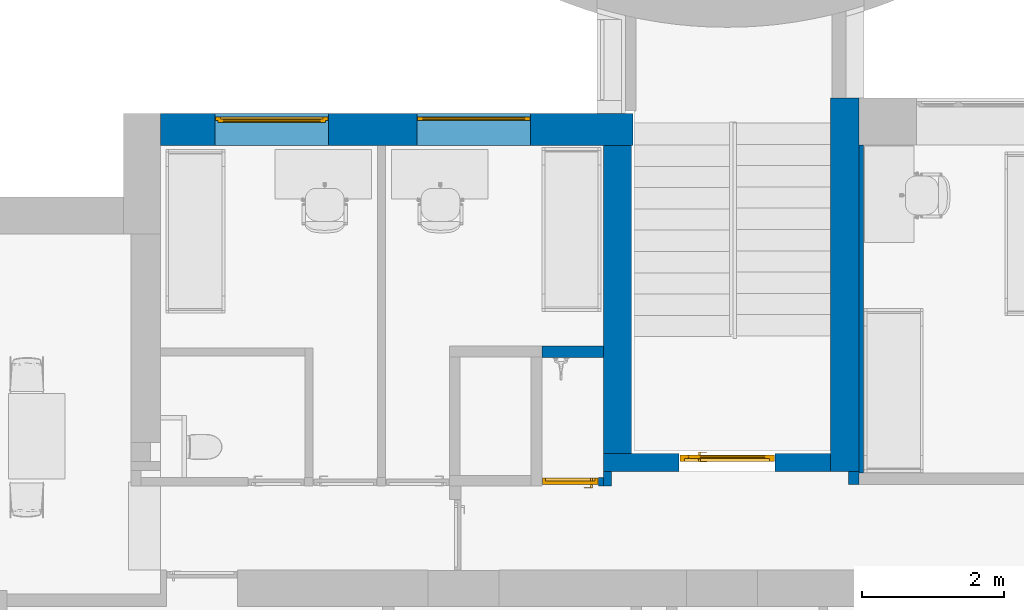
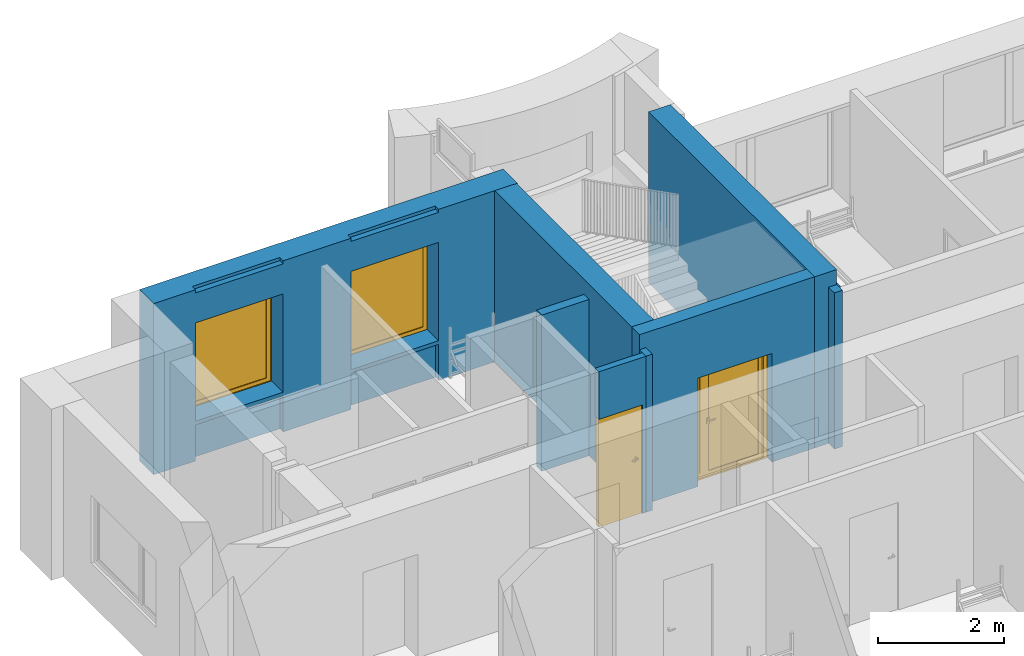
# One storey, part 6 of 48: 9 walls, 2 doors, 2 windows, 6 openings.
"""IFC2X3 building model written with IfcOpenShell, lengths in millimetres."""

import ifcopenshell
import ifcopenshell.guid

model = None  # the IFC model being written
_history = None  # IfcOwnerHistory: only IFC2X3 demands one
_inside = {}  # id of a spatial element -> (the spatial element, [elements in it])
_under = {}  # id of a project, library or spatial element -> (it, [spatial elements below it])
_declared = {}  # id of a project -> (the project, [libraries it declares])
_typed = {}  # id of a type object -> (the type object, [elements of that type])
_made_of = {}  # id of a material, layer set ... -> (it, [elements and type objects made of it])


def new_model(schema):
    """Start an empty IFC model of exactly this schema.

    Asked for "IFC4X3", IfcOpenShell would pick the latest addendum, in which some entities
    have other attributes; the version numbers below select the first issue.
    IFC2X3 requires an IfcOwnerHistory on every rooted entity: one is made here for all.
    """
    global model, _history
    if schema == "IFC4X3":
        model = ifcopenshell.file(schema_version=(4, 3, 0, 0))
    else:
        model = ifcopenshell.file(schema=schema)
    _inside.clear()
    _under.clear()
    _declared.clear()
    _typed.clear()
    _made_of.clear()
    _history = None
    if model.schema == "IFC2X3":
        org = make("IfcOrganization", Name="unknown")
        user = make(
            "IfcPersonAndOrganization",
            ThePerson=make("IfcPerson", FamilyName="unknown"),
            TheOrganization=org,
        )
        app = make(
            "IfcApplication",
            ApplicationDeveloper=org,
            Version="unknown",
            ApplicationFullName="unknown",
            ApplicationIdentifier="unknown",
        )
        _history = make(
            "IfcOwnerHistory",
            OwningUser=user,
            OwningApplication=app,
            ChangeAction="ADDED",
            CreationDate=0,
        )
    return model


def make(cls, **values):
    """One entity of the class cls with the attributes given. An attribute that is None is left unset."""
    return model.create_entity(
        cls, **{name: value for name, value in values.items() if value is not None}
    )


def entity(cls, *values):
    """Any entity or typed value of the class cls, its attributes in the order of the schema. None: left unset."""
    e = model.create_entity(cls)
    for i, value in enumerate(values):
        if value is not None:
            e[i] = value
    return e


def rooted(cls, **values):
    """An entity with a GlobalId (a new one), such as an element, a storey or a relation."""
    return make(cls, GlobalId=ifcopenshell.guid.new(), OwnerHistory=_history, **values)


def si_unit(unit_type, name, prefix=None):
    """IfcSIUnit, for example si_unit("LENGTHUNIT", "METRE", prefix="MILLI")."""
    return make("IfcSIUnit", UnitType=unit_type, Prefix=prefix, Name=name)


def converted_unit(unit_type, name, factor, base, dimensions=None, offset=None):
    """IfcConversionBasedUnit, such as the inch: factor (a typed value) times the base unit."""
    return make(
        "IfcConversionBasedUnit"
        if offset is None
        else "IfcConversionBasedUnitWithOffset",
        ConversionOffset=offset,
        Dimensions=None
        if dimensions is None
        else entity("IfcDimensionalExponents", *dimensions),
        UnitType=unit_type,
        Name=name,
        ConversionFactor=make(
            "IfcMeasureWithUnit", ValueComponent=factor, UnitComponent=base
        ),
    )


def derived_unit(unit_type, elements):
    """IfcDerivedUnit: a product of units, each with its exponent."""
    return make(
        "IfcDerivedUnit",
        Elements=[
            make("IfcDerivedUnitElement", Unit=unit, Exponent=power)
            for unit, power in elements
        ],
        UnitType=unit_type,
    )


def assignment(units):
    """IfcUnitAssignment: the units of a project."""
    return None if units is None else make("IfcUnitAssignment", Units=units)


def point(xyz):
    """IfcCartesianPoint."""
    return None if xyz is None else make("IfcCartesianPoint", Coordinates=xyz)


def direction(xyz):
    """IfcDirection."""
    return None if xyz is None else make("IfcDirection", DirectionRatios=xyz)


def frame(location, z_axis=None, x_axis=None):
    """IfcAxis2Placement3D, a coordinate frame: its origin and axes. An axis left out is left unset."""
    return make(
        "IfcAxis2Placement3D",
        Location=point(location),
        Axis=direction(z_axis),
        RefDirection=direction(x_axis),
    )


def frame_2d(location, x_axis=None):
    """IfcAxis2Placement2D, a coordinate frame in the plane: its origin and x axis."""
    return make(
        "IfcAxis2Placement2D", Location=point(location), RefDirection=direction(x_axis)
    )


def origin():
    """The frame at (0, 0, 0) with its axes left unset."""
    return frame((0.0, 0.0, 0.0))


def origin_2d_with_axis():
    """The frame at (0, 0) in the plane with the x axis (1, 0) written out."""
    return frame_2d((0.0, 0.0), x_axis=(1.0, 0.0))


def place(relative_to, where):
    """IfcLocalPlacement: puts the frame where relative to a parent placement (None: the world)."""
    return make(
        "IfcLocalPlacement", PlacementRelTo=relative_to, RelativePlacement=where
    )


def context(
    kind, dimensions, precision=None, world=None, true_north=None, identifier=None
):
    """IfcGeometricRepresentationContext, for example the 3D "Model" context."""
    return make(
        "IfcGeometricRepresentationContext",
        ContextIdentifier=identifier,
        ContextType=kind,
        CoordinateSpaceDimension=dimensions,
        Precision=precision,
        WorldCoordinateSystem=world,
        TrueNorth=true_north,
    )


def subcontext(parent, identifier, kind, view, scale=None):
    """IfcGeometricRepresentationSubContext, for example "Body" below "Model"."""
    return make(
        "IfcGeometricRepresentationSubContext",
        ContextIdentifier=identifier,
        ContextType=kind,
        ParentContext=parent,
        TargetScale=scale,
        TargetView=view,
    )


def project(units=None, contexts=None):
    """IfcProject with its units and contexts."""
    return rooted(
        "IfcProject",
        Name="project",
        RepresentationContexts=contexts,
        UnitsInContext=assignment(units),
    )


def spatial(cls, under=None, at=None, **own):
    """A site, building, storey or space (cls), placed at a placement, below another one or the project."""
    s = rooted(cls, ObjectPlacement=at, **own)
    if under is not None:
        _under.setdefault(under.id(), (under, []))[1].append(s)
    return s


def polyline(points):
    """IfcPolyline through the points."""
    return make("IfcPolyline", Points=[point(p) for p in points])


def profile(cls, at=None, kind="AREA", **sizes):
    """A parametric profile (cls). Its sizes go by their IFC names, for example OverallWidth=200.0."""
    return make(cls, ProfileType=kind, Position=at, **sizes)


def rectangle(**sizes):
    """IfcRectangleProfileDef."""
    return profile("IfcRectangleProfileDef", **sizes)


def outline(outer, holes=None, kind="AREA"):
    """IfcArbitraryClosedProfileDef: a profile drawn as a closed curve; with holes, ...WithVoids."""
    if holes is None:
        return make("IfcArbitraryClosedProfileDef", ProfileType=kind, OuterCurve=outer)
    return make(
        "IfcArbitraryProfileDefWithVoids",
        ProfileType=kind,
        OuterCurve=outer,
        InnerCurves=holes,
    )


def extrude(swept, where, along, depth):
    """IfcExtrudedAreaSolid: the profile swept, set in the frame where, extruded along a direction by depth."""
    return make(
        "IfcExtrudedAreaSolid",
        SweptArea=swept,
        Position=where,
        ExtrudedDirection=direction(along),
        Depth=depth,
    )


def faces_of(points, faces, orient=None, outer=None):
    """IfcFace entities. A face is a list of loops; a loop is a list of indices into points, from 0.

    orient and outer hold one flag for each loop. By default every Orientation is true, the
    first loop of a face is its IfcFaceOuterBound and the others are IfcFaceBound.
    """
    made = []
    for i, loops in enumerate(faces):
        bounds = []
        for j, loop in enumerate(loops):
            is_outer = j == 0 if outer is None else outer[i][j]
            bounds.append(
                make(
                    "IfcFaceOuterBound" if is_outer else "IfcFaceBound",
                    Bound=make("IfcPolyLoop", Polygon=[points[k] for k in loop]),
                    Orientation=True if orient is None else orient[i][j],
                )
            )
        made.append(make("IfcFace", Bounds=bounds))
    return made


def faceted_brep(points, faces, orient=None, outer=None, voids=None):
    """IfcFacetedBrep: a solid bounded by flat faces; with voids (closed shells), ...WithVoids."""
    shared = [point(p) for p in points]
    hull = make("IfcClosedShell", CfsFaces=faces_of(shared, faces, orient, outer))
    if voids is None:
        return make("IfcFacetedBrep", Outer=hull)
    return make(
        "IfcFacetedBrepWithVoids",
        Outer=hull,
        Voids=[
            make(cls, CfsFaces=faces_of(shared, fs, o, b)) for cls, fs, o, b in voids
        ],
    )


def shape(context_of_items, identifier, shape_type, items):
    """IfcShapeRepresentation: the items that make up one representation, for example the "Body"."""
    return make(
        "IfcShapeRepresentation",
        ContextOfItems=context_of_items,
        RepresentationIdentifier=identifier,
        RepresentationType=shape_type,
        Items=items,
    )


def source(mapping_origin, context_of_items, identifier, shape_type, items):
    """IfcRepresentationMap: a shape defined once, which mapped items show again and again."""
    return make(
        "IfcRepresentationMap",
        MappingOrigin=mapping_origin,
        MappedRepresentation=shape(context_of_items, identifier, shape_type, items),
    )


def transform(
    local_origin,
    x_axis=None,
    y_axis=None,
    z_axis=None,
    scale=None,
    scale2=None,
    scale3=None,
    uniform=True,
):
    """IfcCartesianTransformationOperator3D, or its non-uniform kind. x_axis, y_axis, z_axis: its Axis1, 2, 3."""
    if uniform:
        return make(
            "IfcCartesianTransformationOperator3D",
            Axis1=direction(x_axis),
            Axis2=direction(y_axis),
            LocalOrigin=point(local_origin),
            Scale=scale,
            Axis3=direction(z_axis),
        )
    return make(
        "IfcCartesianTransformationOperator3DnonUniform",
        Axis1=direction(x_axis),
        Axis2=direction(y_axis),
        LocalOrigin=point(local_origin),
        Scale=scale,
        Axis3=direction(z_axis),
        Scale2=scale2,
        Scale3=scale3,
    )


def mapped(mapping_source, mapping_target):
    """IfcMappedItem: shows the shape of a source again, moved by a transform."""
    return make(
        "IfcMappedItem", MappingSource=mapping_source, MappingTarget=mapping_target
    )


def material(Name=None, Category=None):
    """IfcMaterial."""
    return make("IfcMaterial", Name=Name, Category=Category)


def material_list(materials):
    """IfcMaterialList."""
    return make("IfcMaterialList", Materials=materials)


def layer(
    of_material, thickness, ventilated=None, Name=None, Category=None, Priority=None
):
    """IfcMaterialLayer: one layer of a wall or slab, of a material (None: an air gap)."""
    return make(
        "IfcMaterialLayer",
        Material=of_material,
        LayerThickness=thickness,
        IsVentilated=ventilated,
        Name=Name,
        Category=Category,
        Priority=Priority,
    )


def layer_set(layers, Name=None):
    """IfcMaterialLayerSet."""
    return make("IfcMaterialLayerSet", MaterialLayers=layers, LayerSetName=Name)


def layer_usage(for_layer_set, set_direction, sense, offset, extent=None):
    """IfcMaterialLayerSetUsage: how a layer set lies in its element."""
    return make(
        "IfcMaterialLayerSetUsage",
        ForLayerSet=for_layer_set,
        LayerSetDirection=set_direction,
        DirectionSense=sense,
        OffsetFromReferenceLine=offset,
        ReferenceExtent=extent,
    )


def made_of(thing, what):
    """Note that an element or type object is made of a material, layer set ...; save() writes the relation."""
    if what is not None:
        _made_of.setdefault(what.id(), (what, []))[1].append(thing)
    return thing


def type_object(cls, material=None, **own):
    """A type object (cls), such as IfcWallType, which elements share."""
    return made_of(rooted(cls, **own), material)


def type_shapes(of_type, sources):
    """Give a type object the sources (RepresentationMaps) that its elements show as mapped items."""
    of_type.RepresentationMaps = sources


def element(
    cls,
    number,
    at=None,
    inside=None,
    cuts=None,
    type_object=None,
    material=None,
    context=None,
    identifier="Body",
    shape_type=None,
    held_by="IfcProductDefinitionShape",
    body=None,
    shapes=None,
    **own,
):
    """One element of the class cls, such as IfcWall. Its Tag is "e" and its number.

    at: its placement. inside: the storey or other place that contains it. cuts: it is an
    opening in that element (IfcRelVoidsElement). A single representation is given by context,
    identifier, shape_type and body (its items); several are given by shapes. held_by: the class
    of the entity that holds the representations. save() writes the other relations.
    """
    e = rooted(cls, Tag="e%d" % number, ObjectPlacement=at, **own)
    if body is not None:
        shapes = [shape(context, identifier, shape_type, body)]
    if shapes is not None:
        e.Representation = make(held_by, Representations=shapes)
    if inside is not None:
        _inside.setdefault(inside.id(), (inside, []))[1].append(e)
    if cuts is not None:
        rooted(
            "IfcRelVoidsElement", RelatingBuildingElement=cuts, RelatedOpeningElement=e
        )
    if type_object is not None:
        _typed.setdefault(type_object.id(), (type_object, []))[1].append(e)
    return made_of(e, material)


def fill(opening, filler):
    """IfcRelFillsElement: the door or window that sits in an opening."""
    return rooted(
        "IfcRelFillsElement",
        RelatingOpeningElement=opening,
        RelatedBuildingElement=filler,
    )


def aggregate(whole, parts):
    """IfcRelAggregates: a whole, such as a stair, and the parts it consists of."""
    return rooted("IfcRelAggregates", RelatingObject=whole, RelatedObjects=parts)


def save(model, path):
    """Write the relations noted so far, then the file.

    IfcRelAggregates (storeys below a building ...), IfcRelContainedInSpatialStructure (elements
    in a storey), IfcRelDefinesByType, IfcRelAssociatesMaterial and IfcRelDeclares: one each for
    every whole, place, type object, material and project.
    """
    for whole, parts in _under.values():
        aggregate(whole, parts)
    for where, things in _inside.values():
        rooted(
            "IfcRelContainedInSpatialStructure",
            RelatedElements=things,
            RelatingStructure=where,
        )
    for kind, things in _typed.values():
        rooted("IfcRelDefinesByType", RelatedObjects=things, RelatingType=kind)
    for what, things in _made_of.values():
        rooted("IfcRelAssociatesMaterial", RelatedObjects=things, RelatingMaterial=what)
    for by, libraries in _declared.values():
        rooted("IfcRelDeclares", RelatingContext=by, RelatedDefinitions=libraries)
    model.write(path)


model = new_model("IFC2X3")

# Units and contexts
model_context = context("Model", 3, precision=0.01, world=origin(), true_north=direction((6.12303176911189e-17, 1.0)))
body_context = subcontext(model_context, "Body", "Model", "MODEL_VIEW")
ifc_project = project(units=[si_unit("LENGTHUNIT", "METRE", prefix="MILLI"), si_unit("AREAUNIT", "SQUARE_METRE"), si_unit("VOLUMEUNIT", "CUBIC_METRE"), converted_unit("PLANEANGLEUNIT", "DEGREE", entity("IfcRatioMeasure", 0.0174532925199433), si_unit("PLANEANGLEUNIT", "RADIAN"), dimensions=[0, 0, 0, 0, 0, 0, 0]), si_unit("MASSUNIT", "GRAM", prefix="KILO"), derived_unit("MASSDENSITYUNIT", [(si_unit("MASSUNIT", "GRAM", prefix="KILO"), 1), (si_unit("LENGTHUNIT", "METRE"), -3)]), si_unit("TIMEUNIT", "SECOND"), si_unit("FREQUENCYUNIT", "HERTZ"), si_unit("THERMODYNAMICTEMPERATUREUNIT", "DEGREE_CELSIUS"), derived_unit("THERMALTRANSMITTANCEUNIT", [(si_unit("MASSUNIT", "GRAM", prefix="KILO"), 1), (si_unit("THERMODYNAMICTEMPERATUREUNIT", "KELVIN"), -1), (si_unit("TIMEUNIT", "SECOND"), -3)]), derived_unit("VOLUMETRICFLOWRATEUNIT", [(si_unit("LENGTHUNIT", "METRE"), 3), (si_unit("TIMEUNIT", "SECOND"), -1)]), si_unit("ELECTRICCURRENTUNIT", "AMPERE"), si_unit("ELECTRICVOLTAGEUNIT", "VOLT"), si_unit("POWERUNIT", "WATT"), si_unit("FORCEUNIT", "NEWTON", prefix="KILO"), si_unit("ILLUMINANCEUNIT", "LUX"), si_unit("LUMINOUSFLUXUNIT", "LUMEN"), si_unit("LUMINOUSINTENSITYUNIT", "CANDELA"), derived_unit("USERDEFINED", [(si_unit("MASSUNIT", "GRAM", prefix="KILO"), -1), (si_unit("LENGTHUNIT", "METRE"), -2), (si_unit("TIMEUNIT", "SECOND"), 3), (si_unit("LUMINOUSFLUXUNIT", "LUMEN"), 1)]), derived_unit("LINEARVELOCITYUNIT", [(si_unit("LENGTHUNIT", "METRE"), 1), (si_unit("TIMEUNIT", "SECOND"), -1)]), si_unit("PRESSUREUNIT", "PASCAL"), derived_unit("USERDEFINED", [(si_unit("LENGTHUNIT", "METRE"), -2), (si_unit("MASSUNIT", "GRAM", prefix="KILO"), 1), (si_unit("TIMEUNIT", "SECOND"), -2)]), derived_unit("LINEARFORCEUNIT", [(si_unit("MASSUNIT", "GRAM", prefix="KILO"), 1), (si_unit("LENGTHUNIT", "METRE"), 1), (si_unit("TIMEUNIT", "SECOND"), -2), (si_unit("LENGTHUNIT", "METRE"), -1)]), derived_unit("PLANARFORCEUNIT", [(si_unit("MASSUNIT", "GRAM", prefix="KILO"), 1), (si_unit("LENGTHUNIT", "METRE"), 1), (si_unit("TIMEUNIT", "SECOND"), -2), (si_unit("LENGTHUNIT", "METRE"), -2)])], contexts=[model_context])

# Site, building, storey
site_placement = place(None, origin())
site = spatial("IfcSite", under=ifc_project, at=site_placement, Name="Default", CompositionType="ELEMENT")
building_placement = place(site_placement, origin())
building = spatial("IfcBuilding", under=site, at=building_placement, Name="SMA ARH", CompositionType="ELEMENT")
storey_placement = place(building_placement, frame((0.0, 0.0, 6600.0)))
storey = spatial("IfcBuildingStorey", under=building, at=storey_placement, Name="3 Korrus", CompositionType="ELEMENT", Elevation=6599.99999999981)

# Walls
ifc_material_1 = material(Name="_ol.olev sein")
ifc_layer_1 = layer(ifc_material_1, 400.0)
ifc_layer_set_1 = layer_set([ifc_layer_1], Name="Basic Wall:Generic - 400mm")
ifc_layer_usage_1 = layer_usage(ifc_layer_set_1, "AXIS2", "POSITIVE", -200.0)
wall_type_1 = type_object("IfcWallType", Name="Basic Wall:Generic - 400mm", PredefinedType="STANDARD", material=ifc_layer_set_1)
wall_1_placement = place(storey_placement, frame((11800.0, 7905.0, 0.0), z_axis=(0.0, 0.0, 1.0), x_axis=(0.0, 1.0, 0.0)))
element("IfcWallStandardCase", 1, at=wall_1_placement, inside=storey, type_object=wall_type_1, material=ifc_layer_usage_1, Name="Basic Wall:Generic - 400mm", ObjectType="Basic Wall:Generic - 400mm", context=body_context, shape_type="SweptSolid", body=[
    extrude(rectangle(XDim=5260.00000000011, YDim=400.0, at=frame_2d((2630.00000000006, 4.68958205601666e-13), x_axis=(-1.0, 0.0))), origin(), (0.0, 0.0, 1.0), 3309.99999999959),
])
ifc_layer_usage_2 = layer_usage(ifc_layer_set_1, "AXIS2", "POSITIVE", -200.0)
wall_2_placement = place(storey_placement, frame((8600.0, 12496.2030428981, 0.0), z_axis=(0.0, 0.0, 1.0), x_axis=(0.0, -1.0, 0.0)))
element("IfcWallStandardCase", 2, at=wall_2_placement, inside=storey, type_object=wall_type_1, material=ifc_layer_usage_2, Name="Basic Wall:Generic - 400mm", ObjectType="Basic Wall:Generic - 400mm", context=body_context, shape_type="SweptSolid", body=[
    extrude(rectangle(XDim=4341.20304289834, YDim=400.0, at=frame_2d((2170.60152144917, -1.98951966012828e-13), x_axis=(-1.0, 0.0))), origin(), (0.0, 0.0, 1.0), 3309.99999999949),
])

# Wall, openings, windows
ifc_layer_2 = layer(ifc_material_1, 450.0)
ifc_layer_set_2 = layer_set([ifc_layer_2], Name="Basic Wall:Generic - 450mm")
ifc_layer_usage_3 = layer_usage(ifc_layer_set_2, "AXIS2", "NEGATIVE", 225.0)
wall_type_2 = type_object("IfcWallType", Name="Basic Wall:Generic - 450mm", PredefinedType="STANDARD", material=ifc_layer_set_2)
wall_3_placement = place(storey_placement, frame((2165.0, 12721.2030428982, 0.0)))
wall_3 = element("IfcWallStandardCase", 3, at=wall_3_placement, inside=storey, type_object=wall_type_2, material=ifc_layer_usage_3, Name="Basic Wall:Generic - 450mm", ObjectType="Basic Wall:Generic - 450mm", context=body_context, shape_type="SweptSolid", body=[
    extrude(rectangle(XDim=6650.93924803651, YDim=450.000000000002, at=frame_2d((3325.46962401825, 2.55795384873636e-13), x_axis=(-1.0, 0.0))), origin(), (0.0, 0.0, 1.0), 3309.99999999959),
])
opening_1_placement = place(wall_3_placement, origin())
element("IfcOpeningElement", 4, at=opening_1_placement, cuts=wall_3, Name="Basic Wall:Generic - 450mm", ObjectType="Recess", context=body_context, shape_type="SweptSolid", body=[
    extrude(rectangle(XDim=757.825710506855, YDim=1600.0, at=frame_2d((-5.40012479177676e-13, 5.11590769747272e-13), x_axis=(1.0, 0.0))), frame((4410.0, -225.0, 318.912855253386), z_axis=(0.0, 1.0, 0.0), x_axis=(0.0, 0.0, -1.0)), (0.0, 0.0, 1.0), 103.796957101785),
    extrude(rectangle(XDim=757.825710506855, YDim=1600.0, at=frame_2d((-5.40012479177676e-13, -5.11590769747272e-13), x_axis=(1.0, 0.0))), frame((1565.0, -225.0, 318.912855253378), z_axis=(0.0, 1.0, 0.0), x_axis=(0.0, 0.0, -1.0)), (0.0, 0.0, 1.0), 103.796957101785),
    extrude(rectangle(XDim=757.825710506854, YDim=1600.0, at=origin_2d_with_axis()), frame((1565.0, -245.0, 3628.91285525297), z_axis=(0.0, 1.0, 0.0), x_axis=(0.0, 0.0, -1.0)), (0.0, 0.0, 1.0), 123.796957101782),
    extrude(rectangle(XDim=757.825710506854, YDim=1600.0, at=frame_2d((0.0, 5.11590769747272e-13), x_axis=(1.0, 0.0))), frame((4410.0, -245.0, 3628.91285525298), z_axis=(0.0, 1.0, 0.0), x_axis=(0.0, 0.0, -1.0)), (0.0, 0.0, 1.0), 123.796957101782),
])
opening_2_placement = place(wall_3_placement, frame((3610.0, -225.0, 770.0)))
opening_2 = element("IfcOpeningElement", 5, at=opening_2_placement, cuts=wall_3, Name="SMA_W1, 1-jaotus1:A-00_1650x1900 mm kinni:1", ObjectType="Opening", context=body_context, shape_type="SweptSolid", body=[
    extrude(rectangle(XDim=1900.0, YDim=1600.0, at=frame_2d((950.0, 800.0), x_axis=(1.0, 0.0))), frame((0.0, 0.0, 0.0), z_axis=(0.0, 1.0, 0.0), x_axis=(0.0, 0.0, 1.0)), (0.0, 0.0, 1.0), 450.0),
])
opening_3_placement = place(wall_3_placement, frame((765.0, -225.0, 770.0)))
opening_3 = element("IfcOpeningElement", 6, at=opening_3_placement, cuts=wall_3, Name="SMA_W1, 1-jaotus1:A-00_1650x1900 mm:1", ObjectType="Opening", context=body_context, shape_type="SweptSolid", body=[
    extrude(rectangle(XDim=1900.0, YDim=1600.0, at=frame_2d((950.0, 800.0), x_axis=(1.0, 0.0))), frame((0.0, 0.0, 0.0), z_axis=(0.0, 1.0, 0.0), x_axis=(0.0, 0.0, 1.0)), (0.0, 0.0, 1.0), 450.0),
])
ifc_material_2 = material(Name="EST. Klaas. 3x. Default")
ifc_material_3 = material(Name="Default")
ifc_material_list_1 = material_list([ifc_material_2, ifc_material_3])
ifc_material_4 = material(Name="<Unnamed>")
ifc_material_list_2 = material_list([ifc_material_2, ifc_material_3, ifc_material_4, ifc_material_3, ifc_material_4])
window_style_1 = type_object("IfcWindowStyle", Name="SMA_W1, 1-jaotus1:A-00_1650x1900 mm", ConstructionType="NOTDEFINED", OperationType="NOTDEFINED", ParameterTakesPrecedence=False, Sizeable=False, material=ifc_material_list_2)
shared_shape_1 = source(origin(), body_context, "Body", "SweptSolid", [
    extrude(rectangle(XDim=20.0, YDim=1370.0, at=frame_2d((1.68753899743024e-14, -1.13686837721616e-13), x_axis=(1.0, 0.0))), frame((800.0, 350.0, 115.0), z_axis=(0.0, 0.0, 1.0), x_axis=(0.0, 1.0, 0.0)), (0.0, 0.0, 1.0), 1670.0),
    extrude(outline(polyline([(-905.0, -755.0), (905.0, -755.0), (905.0, 755.0), (-905.0, 755.0), (-905.0, -755.0)]), holes=[polyline([(835.0, 685.0), (835.0, -685.0), (-835.0, -685.0), (-835.0, 685.0), (835.0, 685.0)])]), frame((800.0, 325.0, 950.0), z_axis=(0.0, 1.0, 0.0), x_axis=(0.0, 0.0, 1.0)), (0.0, 0.0, 1.0), 50.0),
    extrude(outline(polyline([(-940.0, -790.0), (940.0, -790.0), (940.0, 790.0), (-940.0, 790.0), (-940.0, -790.0)]), holes=[polyline([(-870.0, -720.0), (-870.0, 720.0), (870.0, 720.0), (870.0, -720.0), (-870.0, -720.0)])]), frame((800.0, 350.0, 950.0), z_axis=(0.0, 1.0, 0.0), x_axis=(0.0, 0.0, 1.0)), (0.0, 0.0, 1.0), 50.0),
])
type_shapes(window_style_1, [shared_shape_1])
window_1_placement = place(opening_3_placement, origin())
window_1 = element("IfcWindow", 7, at=window_1_placement, inside=storey, type_object=window_style_1, material=ifc_material_list_1, Name="SMA_W1, 1-jaotus1:A-00_1650x1900 mm", ObjectType="SMA_W1, 1-jaotus1:A-00_1650x1900 mm", OverallHeight=1900.0, OverallWidth=1600.0, context=body_context, shape_type="MappedRepresentation", body=[
    mapped(shared_shape_1, transform((0.0, 0.0, 0.0), scale=1.0)),
])
fill(opening_3, window_1)
ifc_material_list_3 = material_list([ifc_material_3, ifc_material_2])
ifc_material_list_4 = material_list([ifc_material_4, ifc_material_3, ifc_material_2, ifc_material_3, ifc_material_4])
window_style_2 = type_object("IfcWindowStyle", Name="SMA_W1, 1-jaotus1:A-00_1650x1900 mm kinni", ConstructionType="NOTDEFINED", OperationType="NOTDEFINED", ParameterTakesPrecedence=False, Sizeable=False, material=ifc_material_list_4)
shared_shape_2 = source(origin(), body_context, "Body", "SweptSolid", [
    extrude(outline(polyline([(-940.0, -790.0), (940.0, -790.0), (940.0, 790.0), (-940.0, 790.0), (-940.0, -790.0)]), holes=[polyline([(-870.0, -720.0), (-870.0, 720.0), (870.0, 720.0), (870.0, -720.0), (-870.0, -720.0)])]), frame((800.0, 350.0, 950.0), z_axis=(0.0, 1.0, 0.0), x_axis=(0.0, 0.0, 1.0)), (0.0, 0.0, 1.0), 50.0),
    extrude(rectangle(XDim=20.0, YDim=1440.0, at=frame_2d((-8.88178419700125e-15, 5.6843418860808e-14), x_axis=(1.0, 0.0))), frame((800.0, 375.0, 80.0), z_axis=(0.0, 0.0, 1.0), x_axis=(0.0, 1.0, 0.0)), (0.0, 0.0, 1.0), 1740.0),
])
type_shapes(window_style_2, [shared_shape_2])
window_2_placement = place(opening_2_placement, origin())
window_2 = element("IfcWindow", 8, at=window_2_placement, inside=storey, type_object=window_style_2, material=ifc_material_list_3, Name="SMA_W1, 1-jaotus1:A-00_1650x1900 mm kinni", ObjectType="SMA_W1, 1-jaotus1:A-00_1650x1900 mm kinni", OverallHeight=1900.0, OverallWidth=1600.0, context=body_context, shape_type="MappedRepresentation", body=[
    mapped(shared_shape_2, transform((0.0, 0.0, 0.0), scale=1.0)),
])
fill(opening_2, window_2)

# Wall, opening, door
ifc_layer_3 = layer(ifc_material_1, 250.0)
ifc_layer_set_3 = layer_set([ifc_layer_3], Name="Basic Wall:Generic - 250mm")
ifc_layer_usage_4 = layer_usage(ifc_layer_set_3, "AXIS2", "POSITIVE", -125.0)
wall_type_3 = type_object("IfcWallType", Name="Basic Wall:Generic - 250mm", PredefinedType="STANDARD", material=ifc_layer_set_3)
wall_4_placement = place(storey_placement, frame((8400.0, 8030.0, 0.0)))
wall_4 = element("IfcWallStandardCase", 9, at=wall_4_placement, inside=storey, type_object=wall_type_3, material=ifc_layer_usage_4, Name="Basic Wall:Generic - 250mm", ObjectType="Basic Wall:Generic - 250mm", context=body_context, shape_type="SweptSolid", body=[
    extrude(rectangle(XDim=3200.0, YDim=249.999999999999, at=frame_2d((1600.0, 7.105427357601e-14), x_axis=(-1.0, 0.0))), origin(), (0.0, 0.0, 1.0), 3309.99999999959),
])
opening_4_placement = place(wall_4_placement, frame((1070.0, -125.0, 0.0)))
opening_4 = element("IfcOpeningElement", 10, at=opening_4_placement, cuts=wall_4, Name="SMA_D02, 2-poolne:SU-AL-03 - 1350x2100:1", ObjectType="Opening", context=body_context, shape_type="SweptSolid", body=[
    extrude(rectangle(XDim=2099.99999999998, YDim=1350.0, at=frame_2d((1049.99999999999, 675.0), x_axis=(1.0, 0.0))), frame((0.0, 0.0, 0.0), z_axis=(0.0, 1.0, 0.0), x_axis=(0.0, 0.0, 1.0)), (0.0, 0.0, 1.0), 250.0),
])
ifc_material_5 = material(Name="EST. Metall. Plekk. Värvitud. RAL7023 (Concrete grey)")
ifc_material_list_5 = material_list([ifc_material_5, ifc_material_2])
ifc_material_list_6 = material_list([ifc_material_5, ifc_material_4, ifc_material_5, ifc_material_5, ifc_material_4, ifc_material_2, ifc_material_4])
door_style_1 = type_object("IfcDoorStyle", Name="SMA_D02, 2-poolne:SU-AL-03 - 1350x2100", ConstructionType="NOTDEFINED", OperationType="NOTDEFINED", ParameterTakesPrecedence=False, Sizeable=False, material=ifc_material_list_6)
shared_shape_3 = source(origin(), body_context, "Body", "Brep", [
    faceted_brep([(297.499999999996, 140.0, 1100.0), (297.499999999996, 178.0, 1100.0), (272.499999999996, 178.0, 1100.0), (272.499999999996, 135.0, 1100.0), (392.499999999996, 135.0, 1100.0), (392.499999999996, 140.0, 1100.0), (297.499999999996, 140.0, 1075.0), (392.499999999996, 140.0, 1075.0), (392.499999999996, 135.0, 1075.0), (272.499999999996, 135.0, 1075.0), (272.499999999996, 178.0, 1075.0), (297.499999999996, 178.0, 1075.0)], [[[0, 1, 2, 3, 4, 5]], [[6, 7, 8, 9, 10, 11]], [[1, 0, 6, 11]], [[2, 1, 11, 10]], [[3, 2, 10, 9]], [[4, 3, 9, 8]], [[5, 4, 8, 7]], [[0, 5, 7, 6]]]),
    faceted_brep([(310.0, 178.0, 1125.0), (310.0, 180.0, 1125.0), (260.0, 180.0, 1125.0), (260.0, 178.0, 1125.0), (310.0, 178.0, 1005.0), (260.0, 178.0, 1005.0), (260.0, 180.0, 1005.0), (310.0, 180.0, 1005.0)], [[[0, 1, 2, 3]], [[4, 5, 6, 7]], [[1, 0, 4, 7]], [[2, 1, 7, 6]], [[3, 2, 6, 5]], [[0, 3, 5, 4]]]),
    faceted_brep([(297.499999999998, 270.0, 1100.0), (392.499999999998, 270.0, 1100.0), (392.499999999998, 275.0, 1100.0), (272.499999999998, 275.0, 1100.0), (272.499999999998, 232.0, 1100.0), (297.499999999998, 232.0, 1100.0), (297.499999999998, 270.0, 1075.0), (297.499999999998, 232.0, 1075.0), (272.499999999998, 232.0, 1075.0), (272.499999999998, 275.0, 1075.0), (392.499999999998, 275.0, 1075.0), (392.499999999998, 270.0, 1075.0)], [[[0, 1, 2, 3, 4, 5]], [[6, 7, 8, 9, 10, 11]], [[5, 7, 6, 0]], [[4, 8, 7, 5]], [[3, 9, 8, 4]], [[2, 10, 9, 3]], [[1, 11, 10, 2]], [[0, 6, 11, 1]]]),
    faceted_brep([(310.0, 232.0, 1125.0), (260.0, 232.0, 1125.0), (260.0, 230.0, 1125.0), (310.0, 230.0, 1125.0), (310.0, 232.0, 1005.0), (310.0, 230.0, 1005.0), (260.0, 230.0, 1005.0), (260.0, 232.0, 1005.0)], [[[0, 1, 2, 3]], [[4, 5, 6, 7]], [[3, 5, 4, 0]], [[2, 6, 5, 3]], [[1, 7, 6, 2]], [[0, 4, 7, 1]]]),
    faceted_brep([(1274.5, 140.0, 30.0), (1274.5, 140.0, 0.0), (1274.5, 180.0, 0.0), (1274.5, 180.0, 20.0), (1274.5, 180.0, 30.0), (75.4999999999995, 140.0, 30.0), (75.4999999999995, 180.0, 30.0), (75.4999999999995, 180.0, 20.0), (75.4999999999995, 180.0, 0.0), (75.4999999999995, 140.0, 0.0), (65.4999999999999, 180.0, 0.0), (65.4999999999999, 230.0, 0.0), (1284.5, 230.0, 0.0), (1284.5, 180.0, 0.0), (1284.5, 230.0, 20.0), (1284.5, 180.0, 20.0), (65.4999999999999, 230.0, 20.0), (65.4999999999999, 180.0, 20.0)], [[[0, 1, 2, 3, 4]], [[5, 6, 7, 8, 9]], [[1, 0, 5, 9]], [[2, 1, 9, 8, 10, 11, 12, 13]], [[6, 4, 3, 7]], [[0, 4, 6, 5]], [[14, 15, 13, 12]], [[16, 11, 10, 17]], [[15, 14, 16, 17, 7, 3]], [[13, 15, 3, 2]], [[14, 12, 11, 16]], [[17, 10, 8, 7]]]),
    faceted_brep([(1340.0, 140.0, 0.0), (1274.5, 140.0, 0.0), (1274.5, 180.0, 0.0), (1284.5, 180.0, 0.0), (1284.5, 230.0, 0.0), (1340.0, 230.0, 0.0), (1340.0, 140.0, 2090.0), (10.0, 140.0, 2090.0), (10.0, 140.0, 0.0), (75.4999999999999, 140.0, 0.0), (75.4999999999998, 140.0, 2024.49999999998), (1274.5, 140.0, 2024.49999999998), (1274.5, 180.0, 2024.49999999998), (75.5000000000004, 180.0, 2024.49999999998), (75.5000000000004, 180.0, 0.0), (65.5000000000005, 180.0, 0.0), (65.5000000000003, 180.0, 2034.49999999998), (1284.5, 180.0, 2034.49999999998), (1284.5, 230.0, 2034.49999999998), (65.5000000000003, 230.0, 2034.49999999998), (65.5000000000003, 230.0, 0.0), (10.0, 230.0, 0.0), (10.0, 230.0, 2090.0), (1340.0, 230.0, 2090.0)], [[[0, 1, 2, 3, 4, 5]], [[1, 0, 6, 7, 8, 9, 10, 11]], [[2, 1, 11, 12]], [[3, 2, 12, 13, 14, 15, 16, 17]], [[4, 3, 17, 18]], [[5, 4, 18, 19, 20, 21, 22, 23]], [[0, 5, 23, 6]], [[8, 7, 22, 21]], [[9, 8, 21, 20, 15, 14]], [[10, 9, 14, 13]], [[16, 15, 20, 19]], [[11, 10, 13, 12]], [[17, 16, 19, 18]], [[7, 6, 23, 22]]]),
    faceted_brep([(140.500000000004, 195.0, 95.0), (140.500000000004, 195.0, 1955.0), (125.0, 195.0, 1955.0), (125.0, 195.0, 95.0), (140.500000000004, 215.0, 95.0), (125.0, 215.0, 95.0), (125.0, 215.0, 1955.0), (140.500000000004, 215.0, 1955.0)], [[[0, 1, 2, 3]], [[4, 5, 6, 7]], [[0, 3, 5, 4]], [[3, 2, 6, 5]], [[2, 1, 7, 6]], [[1, 0, 4, 7]]]),
    faceted_brep([(295.0, 195.0, 95.0), (1209.5, 195.0, 95.0), (1209.5, 195.0, 1955.0), (295.0, 195.0, 1955.0), (295.0, 215.0, 95.0), (295.0, 215.0, 1955.0), (1209.5, 215.0, 1955.0), (1209.5, 215.0, 95.0)], [[[0, 1, 2, 3]], [[4, 5, 6, 7]], [[1, 0, 4, 7]], [[2, 1, 7, 6]], [[3, 2, 6, 5]], [[0, 3, 5, 4]]]),
    faceted_brep([(210.0, 180.0, 2034.49999999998), (65.4999999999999, 180.0, 2034.49999999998), (65.4999999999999, 180.0, 20.0), (210.0, 180.0, 20.0), (140.500000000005, 180.0, 1955.0), (140.500000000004, 180.0, 95.0), (125.0, 180.0, 95.0), (125.0, 180.0, 1955.0), (210.0, 230.0, 2034.49999999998), (210.0, 230.0, 20.0), (65.4999999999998, 230.0, 20.0), (65.4999999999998, 230.0, 2034.49999999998), (140.500000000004, 230.0, 95.0), (140.500000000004, 230.0, 1955.0), (125.0, 230.0, 1955.0), (125.0, 230.0, 95.0)], [[[0, 1, 2, 3], [4, 5, 6, 7]], [[8, 9, 10, 11], [12, 13, 14, 15]], [[1, 0, 8, 11]], [[2, 1, 11, 10]], [[3, 2, 10, 9]], [[0, 3, 9, 8]], [[12, 5, 4, 13]], [[5, 12, 15, 6]], [[6, 15, 14, 7]], [[7, 14, 13, 4]]]),
    faceted_brep([(210.0, 180.0, 2034.49999999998), (210.0, 180.0, 20.0), (1284.5, 180.0, 20.0), (1284.5, 180.0, 2034.49999999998), (295.0, 180.0, 95.0), (295.0, 180.0, 1955.0), (1209.5, 180.0, 1955.0), (1209.5, 180.0, 95.0), (210.0, 230.0, 2034.49999999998), (1284.5, 230.0, 2034.49999999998), (1284.5, 230.0, 20.0), (210.0, 230.0, 20.0), (295.0, 230.0, 1955.0), (295.0, 230.0, 95.0), (1209.5, 230.0, 95.0), (1209.5, 230.0, 1955.0)], [[[0, 1, 2, 3], [4, 5, 6, 7]], [[8, 9, 10, 11], [12, 13, 14, 15]], [[1, 0, 8, 11]], [[2, 1, 11, 10]], [[3, 2, 10, 9]], [[0, 3, 9, 8]], [[12, 5, 4, 13]], [[13, 4, 7, 14]], [[14, 7, 6, 15]], [[5, 12, 15, 6]]]),
])
type_shapes(door_style_1, [shared_shape_3])
door_1_placement = place(opening_4_placement, origin())
door_1 = element("IfcDoor", 11, at=door_1_placement, inside=storey, type_object=door_style_1, material=ifc_material_list_5, Name="SMA_D02, 2-poolne:SU-AL-03 - 1350x2100", ObjectType="SMA_D02, 2-poolne:SU-AL-03 - 1350x2100", OverallHeight=2099.99999999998, OverallWidth=1350.0, context=body_context, shape_type="MappedRepresentation", body=[
    mapped(shared_shape_3, transform((0.0, 0.0, 0.0), scale=1.0)),
])
fill(opening_4, door_1)

# Wall
ifc_material_6 = material(Name="EST. Ehitusplaat. Kipsplaat")
ifc_layer_4 = layer(ifc_material_6, 12.5)
ifc_layer_5 = layer(ifc_material_6, 12.5)
ifc_material_7 = material(Name="EST. Soojustus. Mineraalvill. Default")
ifc_layer_6 = layer(ifc_material_7, 50.0)
ifc_layer_7 = layer(ifc_material_6, 12.5)
ifc_layer_8 = layer(ifc_material_7, 50.0)
ifc_layer_9 = layer(ifc_material_6, 12.5)
ifc_layer_10 = layer(ifc_material_6, 12.5)
ifc_layer_set_4 = layer_set([ifc_layer_4, ifc_layer_5, ifc_layer_6, ifc_layer_7, ifc_layer_8, ifc_layer_9, ifc_layer_10], Name="Basic Wall:SS-04_Kips, 50+50 mm metallkarkass 2")
ifc_layer_usage_5 = layer_usage(ifc_layer_set_4, "AXIS2", "NEGATIVE", 81.25)
wall_type_4 = type_object("IfcWallType", Name="Basic Wall:SS-04_Kips, 50+50 mm metallkarkass 2", PredefinedType="STANDARD", material=ifc_layer_set_4)
wall_5_placement = place(storey_placement, frame((7533.72495019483, 9588.75000000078, 0.0)))
element("IfcWallStandardCase", 12, at=wall_5_placement, inside=storey, type_object=wall_type_4, material=ifc_layer_usage_5, Name="Basic Wall:SS-04_Kips, 50+50 mm metallkarkass 2", ObjectType="Basic Wall:SS-04_Kips, 50+50 mm metallkarkass 2", context=body_context, shape_type="SweptSolid", body=[
    extrude(rectangle(XDim=866.275049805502, YDim=162.5, at=frame_2d((433.137524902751, 2.8421709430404e-14), x_axis=(-1.0, 0.0))), origin(), (0.0, 0.0, 1.0), 3019.99999999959),
])

# Wall, opening, door
ifc_layer_11 = layer(ifc_material_6, 12.5)
ifc_layer_12 = layer(ifc_material_6, 12.5)
ifc_layer_13 = layer(ifc_material_7, 66.0)
ifc_layer_14 = layer(ifc_material_6, 12.5)
ifc_layer_15 = layer(ifc_material_6, 12.5)
ifc_layer_set_5 = layer_set([ifc_layer_11, ifc_layer_12, ifc_layer_13, ifc_layer_14, ifc_layer_15], Name="Basic Wall:SS-05_Kips, 66mm metallkarkass")
ifc_layer_usage_6 = layer_usage(ifc_layer_set_5, "AXIS2", "NEGATIVE", 58.0)
wall_type_5 = type_object("IfcWallType", Name="Basic Wall:SS-05_Kips, 66mm metallkarkass", PredefinedType="STANDARD", material=ifc_layer_set_5)
wall_6_placement = place(storey_placement, frame((7533.72495019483, 7758.0, 0.0)))
wall_6 = element("IfcWallStandardCase", 13, at=wall_6_placement, inside=storey, type_object=wall_type_5, material=ifc_layer_usage_6, Name="Basic Wall:SS-05_Kips, 66mm metallkarkass", ObjectType="Basic Wall:SS-05_Kips, 66mm metallkarkass", context=body_context, shape_type="SweptSolid", body=[
    extrude(rectangle(XDim=866.275049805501, YDim=116.0, at=frame_2d((433.137524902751, -4.9737991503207e-14), x_axis=(-1.0, 0.0))), origin(), (0.0, 0.0, 1.0), 3019.99999999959),
])
opening_5_placement = place(wall_6_placement, frame((800.0, 58.0, 0.0)))
opening_5 = element("IfcOpeningElement", 14, at=opening_5_placement, cuts=wall_6, Name="SMA_D01, 1-poolne:SU-M-07 - 800x2100 KORIS.:1", ObjectType="Opening", context=body_context, shape_type="SweptSolid", body=[
    extrude(rectangle(XDim=2099.99999999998, YDim=800.0, at=frame_2d((1049.99999999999, 400.0), x_axis=(1.0, 0.0))), frame((0.0, 0.0, 0.0), z_axis=(0.0, -1.0, 0.0), x_axis=(0.0, 0.0, 1.0)), (0.0, 0.0, 1.0), 116.0),
])
ifc_material_8 = material(Name="EST. Metall. Alumiinium. Värvitud. RAL7023 (Concrete grey)")
ifc_material_list_7 = material_list([ifc_material_4, ifc_material_4, ifc_material_8, ifc_material_4, ifc_material_8, ifc_material_2, ifc_material_8])
door_style_2 = type_object("IfcDoorStyle", Name="SMA_D01, 1-poolne:SU-M-07 - 800x2100 KORIS.", ConstructionType="NOTDEFINED", OperationType="SINGLE_SWING_RIGHT", ParameterTakesPrecedence=False, Sizeable=False, material=ifc_material_list_7)
shared_shape_4 = source(origin(), body_context, "Body", "Brep", [
    faceted_brep([(110.0, 6.0, 1112.5), (110.0, 44.0, 1112.5), (85.0, 44.0, 1112.5), (85.0, 1.0, 1112.5), (205.0, 1.0, 1112.5), (205.0, 6.0, 1112.5), (110.0, 6.0, 1087.5), (205.0, 6.0, 1087.5), (205.0, 1.0, 1087.5), (85.0, 1.0, 1087.5), (85.0, 44.0, 1087.5), (110.0, 44.0, 1087.5)], [[[0, 1, 2, 3, 4, 5]], [[6, 7, 8, 9, 10, 11]], [[1, 0, 6, 11]], [[2, 1, 11, 10]], [[3, 2, 10, 9]], [[4, 3, 9, 8]], [[5, 4, 8, 7]], [[0, 5, 7, 6]]]),
    faceted_brep([(122.5, 44.0, 1137.5), (122.5, 46.0, 1137.5), (72.4999999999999, 46.0, 1137.5), (72.4999999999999, 44.0, 1137.5), (122.5, 44.0, 1017.5), (72.4999999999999, 44.0, 1017.5), (72.4999999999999, 46.0, 1017.5), (122.5, 46.0, 1017.5)], [[[0, 1, 2, 3]], [[4, 5, 6, 7]], [[1, 0, 4, 7]], [[2, 1, 7, 6]], [[3, 2, 6, 5]], [[0, 3, 5, 4]]]),
    faceted_brep([(110.0, 136.0, 1112.5), (205.0, 136.0, 1112.5), (205.0, 141.0, 1112.5), (85.0, 141.0, 1112.5), (85.0, 98.0, 1112.5), (110.0, 98.0, 1112.5), (110.0, 136.0, 1087.5), (110.0, 98.0, 1087.5), (85.0, 98.0, 1087.5), (85.0, 141.0, 1087.5), (205.0, 141.0, 1087.5), (205.0, 136.0, 1087.5)], [[[0, 1, 2, 3, 4, 5]], [[6, 7, 8, 9, 10, 11]], [[5, 7, 6, 0]], [[4, 8, 7, 5]], [[3, 9, 8, 4]], [[2, 10, 9, 3]], [[1, 11, 10, 2]], [[0, 6, 11, 1]]]),
    faceted_brep([(122.5, 98.0, 1137.5), (72.4999999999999, 98.0, 1137.5), (72.4999999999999, 96.0, 1137.5), (122.5, 96.0, 1137.5), (122.5, 98.0, 1017.5), (122.5, 96.0, 1017.5), (72.4999999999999, 96.0, 1017.5), (72.4999999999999, 98.0, 1017.5)], [[[0, 1, 2, 3]], [[4, 5, 6, 7]], [[3, 5, 4, 0]], [[2, 6, 5, 3]], [[1, 7, 6, 2]], [[0, 4, 7, 1]]]),
    faceted_brep([(750.0, 6.0, 30.0), (750.0, 6.0, 0.0), (750.0, 46.0, 0.0), (750.0, 46.0, 20.0), (750.0, 46.0, 30.0), (50.0, 6.0, 30.0), (50.0, 46.0, 30.0), (50.0, 46.0, 20.0), (50.0, 46.0, 0.0), (50.0, 6.0, 0.0), (35.0, 46.0, 0.0), (35.0, 96.0, 0.0), (765.0, 96.0, 0.0), (765.0, 46.0, 0.0), (765.0, 96.0, 20.0), (765.0, 46.0, 20.0), (35.0, 96.0, 20.0), (35.0, 46.0, 20.0)], [[[0, 1, 2, 3, 4]], [[5, 6, 7, 8, 9]], [[1, 0, 5, 9]], [[2, 1, 9, 8, 10, 11, 12, 13]], [[6, 4, 3, 7]], [[0, 4, 6, 5]], [[14, 15, 13, 12]], [[16, 11, 10, 17]], [[15, 14, 16, 17, 7, 3]], [[13, 15, 3, 2]], [[14, 12, 11, 16]], [[17, 10, 8, 7]]]),
    faceted_brep([(790.0, 6.0, 0.0), (750.0, 6.0, 0.0), (750.0, 46.0, 0.0), (765.0, 46.0, 0.0), (765.0, 96.0, 0.0), (790.0, 96.0, 0.0), (790.0, 6.0, 2090.0), (10.0, 6.0, 2090.0), (10.0, 6.0, 0.0), (50.0, 6.0, 0.0), (50.0, 6.0, 2050.0), (750.0, 6.0, 2050.0), (750.0, 46.0, 2050.0), (50.0, 46.0, 2050.0), (50.0, 46.0, 0.0), (35.0, 46.0, 0.0), (35.0, 46.0, 2065.0), (765.0, 46.0, 2065.0), (765.0, 96.0, 2065.0), (35.0, 96.0, 2065.0), (35.0, 96.0, 0.0), (10.0, 96.0, 0.0), (10.0, 96.0, 2090.0), (790.0, 96.0, 2090.0)], [[[0, 1, 2, 3, 4, 5]], [[1, 0, 6, 7, 8, 9, 10, 11]], [[2, 1, 11, 12]], [[3, 2, 12, 13, 14, 15, 16, 17]], [[4, 3, 17, 18]], [[5, 4, 18, 19, 20, 21, 22, 23]], [[0, 5, 23, 6]], [[8, 7, 22, 21]], [[9, 8, 21, 20, 15, 14]], [[10, 9, 14, 13]], [[16, 15, 20, 19]], [[11, 10, 13, 12]], [[17, 16, 19, 18]], [[7, 6, 23, 22]]]),
    faceted_brep([(35.0, 46.0, 2065.0), (35.0, 46.0, 20.0), (765.0, 46.0, 20.0), (765.0, 46.0, 2065.0), (35.0, 96.0, 2065.0), (765.0, 96.0, 2065.0), (765.0, 96.0, 20.0), (35.0, 96.0, 20.0)], [[[0, 1, 2, 3]], [[4, 5, 6, 7]], [[1, 0, 4, 7]], [[2, 1, 7, 6]], [[3, 2, 6, 5]], [[0, 3, 5, 4]]]),
])
type_shapes(door_style_2, [shared_shape_4])
door_2_placement = place(opening_5_placement, frame((0.0, 0.0, 0.0), z_axis=(0.0, 0.0, 1.0), x_axis=(-1.0, 0.0, 0.0)))
door_2 = element("IfcDoor", 15, at=door_2_placement, inside=storey, type_object=door_style_2, material=ifc_material_8, Name="SMA_D01, 1-poolne:SU-M-07 - 800x2100 KORIS.", ObjectType="SMA_D01, 1-poolne:SU-M-07 - 800x2100 KORIS.", OverallHeight=2099.99999999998, OverallWidth=800.0, context=body_context, shape_type="MappedRepresentation", body=[
    mapped(shared_shape_4, transform((0.0, 0.0, 0.0), scale=1.0)),
])
fill(opening_5, door_2)

# Wall, opening
ifc_layer_usage_7 = layer_usage(ifc_layer_set_5, "AXIS2", "NEGATIVE", 58.0)
wall_7_placement = place(storey_placement, frame((8458.0, 7700.0, 0.0), z_axis=(0.0, 0.0, 1.0), x_axis=(0.0, 1.0, 0.0)))
wall_7 = element("IfcWallStandardCase", 16, at=wall_7_placement, inside=storey, type_object=wall_type_5, material=ifc_layer_usage_7, Name="Basic Wall:SS-05_Kips, 66mm metallkarkass", ObjectType="Basic Wall:SS-05_Kips, 66mm metallkarkass", context=body_context, shape_type="SweptSolid", body=[
    extrude(rectangle(XDim=204.999999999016, YDim=116.0, at=frame_2d((102.499999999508, 0.0), x_axis=(-1.0, 0.0))), origin(), (0.0, 0.0, 1.0), 3019.99999999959),
])
opening_6_placement = place(wall_7_placement, origin())
element("IfcOpeningElement", 17, at=opening_6_placement, cuts=wall_7, Name="Basic Wall:SS-05_Kips, 66mm metallkarkass", ObjectType="Opening", context=body_context, shape_type="SweptSolid", body=[
    extrude(rectangle(XDim=2099.99999999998, YDim=116.0, at=frame_2d((0.0, -5.6843418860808e-13), x_axis=(0.0, 1.0))), frame((58.0, 124.2750498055, 1050.0), z_axis=(0.0, 1.0, 0.0), x_axis=(-1.0, 0.0, 0.0)), (0.0, 0.0, 1.0), 800.0),
])

# Walls
ifc_layer_16 = layer(ifc_material_6, 12.5)
ifc_layer_17 = layer(ifc_material_6, 12.5)
ifc_material_9 = material(Name="EST. Õhkvahe. Roov. Kipsplaadi alusroov. Vertikaalne")
ifc_layer_18 = layer(ifc_material_9, 95.0)
ifc_layer_19 = layer(ifc_material_6, 12.5)
ifc_layer_20 = layer(ifc_material_6, 12.5)
ifc_layer_set_6 = layer_set([ifc_layer_16, ifc_layer_17, ifc_layer_18, ifc_layer_19, ifc_layer_20], Name="Basic Wall:SS-04_Kips, 95mm metallkarkass")
ifc_layer_usage_8 = layer_usage(ifc_layer_set_6, "AXIS2", "NEGATIVE", 72.5)
wall_type_6 = type_object("IfcWallType", Name="Basic Wall:SS-04_Kips, 95mm metallkarkass", PredefinedType="STANDARD", material=ifc_layer_set_6)
wall_8_placement = place(storey_placement, frame((11927.5000000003, 7720.0, 0.0), z_axis=(0.0, 0.0, 1.0), x_axis=(0.0, 1.0, 0.0)))
element("IfcWallStandardCase", 18, at=wall_8_placement, inside=storey, type_object=wall_type_6, material=ifc_layer_usage_8, Name="Basic Wall:SS-04_Kips, 95mm metallkarkass", ObjectType="Basic Wall:SS-04_Kips, 95mm metallkarkass", context=body_context, shape_type="SweptSolid", body=[
    extrude(rectangle(XDim=184.999999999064, YDim=145.000000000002, at=frame_2d((92.4999999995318, 0.0), x_axis=(-1.0, 0.0))), origin(), (0.0, 0.0, 1.0), 3019.99999999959),
])
ifc_layer_21 = layer(ifc_material_7, 50.0)
ifc_layer_22 = layer(ifc_material_6, 12.5)
ifc_layer_set_7 = layer_set([ifc_layer_21, ifc_layer_22], Name="Basic Wall:SS-05_Kips, 50mm metallkarkass")
ifc_layer_usage_9 = layer_usage(ifc_layer_set_7, "AXIS2", "POSITIVE", -31.25)
wall_type_7 = type_object("IfcWallType", Name="Basic Wall:SS-05_Kips, 50mm metallkarkass", PredefinedType="STANDARD", material=ifc_layer_set_7)
wall_9_placement = place(storey_placement, frame((12033.0, 12500.0, 0.0), z_axis=(0.0, 0.0, 1.0), x_axis=(0.0, -1.0, 0.0)))
element("IfcWallStandardCase", 19, at=wall_9_placement, inside=storey, type_object=wall_type_7, material=ifc_layer_usage_9, Name="Basic Wall:SS-05_Kips, 50mm metallkarkass", ObjectType="Basic Wall:SS-05_Kips, 50mm metallkarkass", context=body_context, shape_type="SweptSolid", body=[
    extrude(rectangle(XDim=4617.49999999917, YDim=62.4999999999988, at=frame_2d((2308.74999999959, -1.15463194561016e-13), x_axis=(-1.0, 0.0))), origin(), (0.0, 0.0, 1.0), 2970.00000000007),
])

save(model, "model.ifc")
